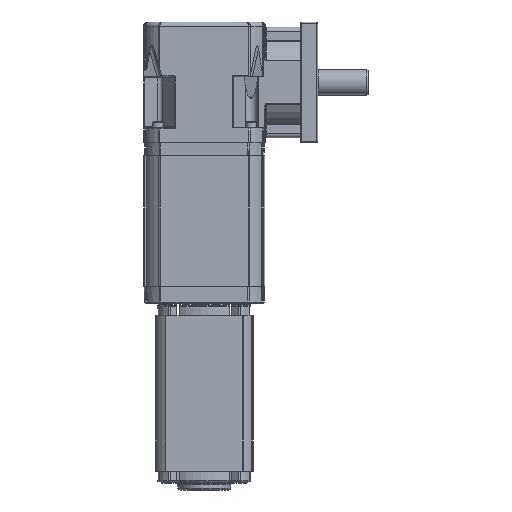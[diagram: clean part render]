
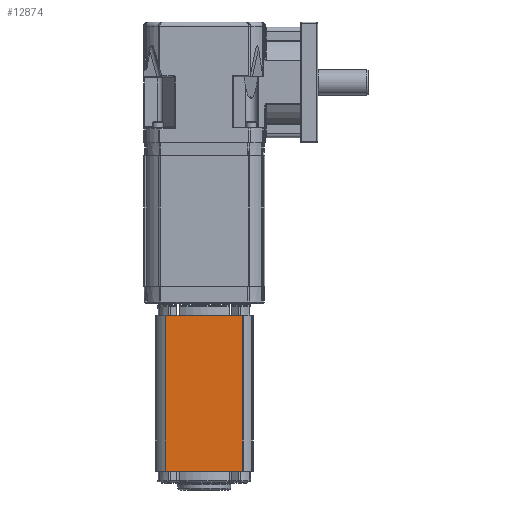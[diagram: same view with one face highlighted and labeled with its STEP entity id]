
A CAD part, front view. The second image highlights one B-rep face of the part: STEP entity #12874.
In plain terms, the highlighted planar face has unit normal (0, -1, 0).
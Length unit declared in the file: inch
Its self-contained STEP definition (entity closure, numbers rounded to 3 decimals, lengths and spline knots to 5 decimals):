
#3568 = FACE_OUTER_BOUND ( 'NONE', #42540, .T. ) ;
#5024 = VECTOR ( 'NONE', #17019, 39.37008 ) ;
#5854 = DIRECTION ( 'NONE',  ( 1., 0., 0. ) ) ;
#6839 = DIRECTION ( 'NONE',  ( -1., 0., 0. ) ) ;
#10020 = VERTEX_POINT ( 'NONE', #54906 ) ;
#10218 = LINE ( 'NONE', #40483, #54799 ) ;
#10892 = VERTEX_POINT ( 'NONE', #43770 ) ;
#12874 = ADVANCED_FACE ( 'NONE', ( #3568 ), #46432, .T. ) ;
#17019 = DIRECTION ( 'NONE',  ( 0., 0., -1. ) ) ;
#19815 = LINE ( 'NONE', #70740, #64383 ) ;
#20606 = LINE ( 'NONE', #22853, #5024 ) ;
#22853 = CARTESIAN_POINT ( 'NONE',  ( -1.1275, -1.442, -11.562 ) ) ;
#29842 = ORIENTED_EDGE ( 'NONE', *, *, #47152, .T. ) ;
#31579 = ORIENTED_EDGE ( 'NONE', *, *, #54427, .T. ) ;
#32589 = LINE ( 'NONE', #58505, #46310 ) ;
#40483 = CARTESIAN_POINT ( 'NONE',  ( 1.1275, -1.442, -11.562 ) ) ;
#40812 = DIRECTION ( 'NONE',  ( 0., -1., 0. ) ) ;
#41796 = DIRECTION ( 'NONE',  ( 1., 0., 0. ) ) ;
#42540 = EDGE_LOOP ( 'NONE', ( #31579, #63495, #29842, #50792 ) ) ;
#43770 = CARTESIAN_POINT ( 'NONE',  ( -1.1275, -1.442, -11.427 ) ) ;
#46310 = VECTOR ( 'NONE', #41796, 39.37008 ) ;
#46432 = PLANE ( 'NONE',  #66972 ) ;
#47152 = EDGE_CURVE ( 'NONE', #10020, #51822, #10218, .T. ) ;
#50792 = ORIENTED_EDGE ( 'NONE', *, *, #66635, .F. ) ;
#51822 = VERTEX_POINT ( 'NONE', #52295 ) ;
#52166 = DIRECTION ( 'NONE',  ( 0., 0., 1. ) ) ;
#52295 = CARTESIAN_POINT ( 'NONE',  ( 1.1275, -1.442, -6.844 ) ) ;
#54088 = EDGE_CURVE ( 'NONE', #10020, #10892, #19815, .T. ) ;
#54427 = EDGE_CURVE ( 'NONE', #61864, #10892, #20606, .T. ) ;
#54799 = VECTOR ( 'NONE', #52166, 39.37008 ) ;
#54906 = CARTESIAN_POINT ( 'NONE',  ( 1.1275, -1.442, -11.427 ) ) ;
#58505 = CARTESIAN_POINT ( 'NONE',  ( -1.1475, -1.442, -6.844 ) ) ;
#61864 = VERTEX_POINT ( 'NONE', #68469 ) ;
#63495 = ORIENTED_EDGE ( 'NONE', *, *, #54088, .F. ) ;
#64383 = VECTOR ( 'NONE', #6839, 39.37008 ) ;
#66635 = EDGE_CURVE ( 'NONE', #61864, #51822, #32589, .T. ) ;
#66972 = AXIS2_PLACEMENT_3D ( 'NONE', #75521, #40812, #5854 ) ;
#68469 = CARTESIAN_POINT ( 'NONE',  ( -1.1275, -1.442, -6.844 ) ) ;
#70740 = CARTESIAN_POINT ( 'NONE',  ( 1.1275, -1.442, -11.427 ) ) ;
#75521 = CARTESIAN_POINT ( 'NONE',  ( -1.1475, -1.442, -11.562 ) ) ;
